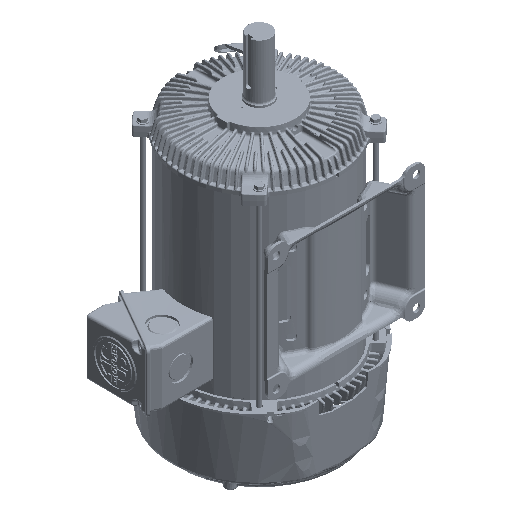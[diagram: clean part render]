
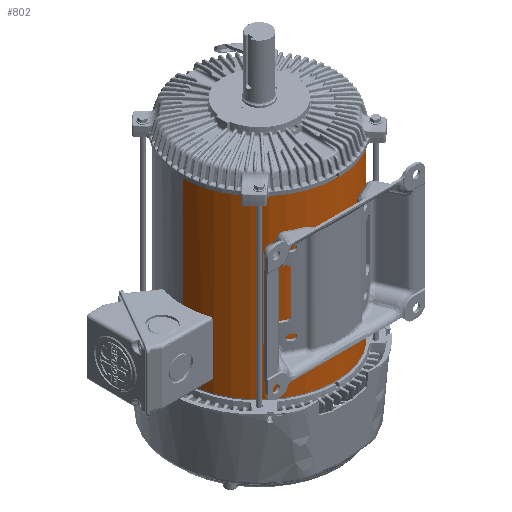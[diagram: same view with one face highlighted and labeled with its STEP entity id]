
A CAD part, isometric view. The second image highlights one B-rep face of the part: STEP entity #802.
In plain terms, the highlighted cylindrical face has radius 137.879 mm (diameter 275.758 mm), a partial arc.
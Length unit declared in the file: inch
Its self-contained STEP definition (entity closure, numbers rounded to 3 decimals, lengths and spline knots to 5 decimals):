
#27=DIRECTION('',(0.,0.,1.));
#28=VECTOR('',#27,12.592);
#29=CARTESIAN_POINT('',(5.4283,0.,-6.2955));
#30=LINE('',#29,#28);
#223=CARTESIAN_POINT('',(-5.28242,-1.25,-4.141));
#224=CARTESIAN_POINT('',(-5.28554,-1.23682,-4.141));
#225=CARTESIAN_POINT('',(-5.29128,-1.21212,
-4.13656));
#226=CARTESIAN_POINT('',(-5.29897,-1.17798,
-4.11704));
#227=CARTESIAN_POINT('',(-5.30441,-1.15315,
-4.08716));
#228=CARTESIAN_POINT('',(-5.30724,-1.14004,
-4.05115));
#229=CARTESIAN_POINT('',(-5.30727,-1.13988,
-4.01257));
#230=CARTESIAN_POINT('',(-5.30446,-1.15294,
-3.97626));
#231=CARTESIAN_POINT('',(-5.29912,-1.17731,
-3.94653));
#232=CARTESIAN_POINT('',(-5.29136,-1.2118,
-3.92649));
#233=CARTESIAN_POINT('',(-5.28557,-1.23668,-3.922));
#234=CARTESIAN_POINT('',(-5.28242,-1.25,-3.922));
#236=CARTESIAN_POINT('',(-5.28242,-1.25,-3.922));
#237=CARTESIAN_POINT('',(-5.27929,-1.26322,-3.922));
#238=CARTESIAN_POINT('',(-5.27334,-1.28795,
-3.92645));
#239=CARTESIAN_POINT('',(-5.26485,-1.32215,
-3.94606));
#240=CARTESIAN_POINT('',(-5.25855,-1.34692,
-3.97599));
#241=CARTESIAN_POINT('',(-5.25519,-1.35995,
-4.01191));
#242=CARTESIAN_POINT('',(-5.25514,-1.36012,
-4.05035));
#243=CARTESIAN_POINT('',(-5.25849,-1.34715,
-4.08658));
#244=CARTESIAN_POINT('',(-5.26468,-1.32285,
-4.11635));
#245=CARTESIAN_POINT('',(-5.27325,-1.28831,
-4.13649));
#246=CARTESIAN_POINT('',(-5.27926,-1.26336,-4.141));
#247=CARTESIAN_POINT('',(-5.28242,-1.25,-4.141));
#249=CARTESIAN_POINT('',(0.,0.,-6.2955));
#250=DIRECTION('',(0.,0.,1.));
#251=DIRECTION('',(-1.,0.,0.));
#252=AXIS2_PLACEMENT_3D('',#249,#250,#251);
#254=DIRECTION('',(0.,0.,1.));
#255=VECTOR('',#254,1.074);
#256=CARTESIAN_POINT('',(-5.4283,0.,-6.2955));
#257=LINE('',#256,#255);
#258=CARTESIAN_POINT('',(0.,0.,-5.2215));
#259=DIRECTION('',(0.,0.,1.));
#260=DIRECTION('',(-1.,0.,0.));
#261=AXIS2_PLACEMENT_3D('',#258,#259,#260);
#263=CARTESIAN_POINT('',(-5.37624,-0.75,-5.0915));
#264=CARTESIAN_POINT('',(-5.37624,-0.75,-5.10534));
#265=CARTESIAN_POINT('',(-5.37683,-0.74581,
-5.13165));
#266=CARTESIAN_POINT('',(-5.37937,-0.72731,
-5.16867));
#267=CARTESIAN_POINT('',(-5.38326,-0.69812,
-5.19816));
#268=CARTESIAN_POINT('',(-5.38797,-0.66082,
-5.21715));
#269=CARTESIAN_POINT('',(-5.39115,-0.63411,-5.2215));
#270=CARTESIAN_POINT('',(-5.39278,-0.62,-5.2215));
#272=DIRECTION('',(0.,0.,1.));
#273=VECTOR('',#272,2.99);
#274=CARTESIAN_POINT('',(-5.37624,-0.75,-5.0915));
#275=LINE('',#274,#273);
#276=CARTESIAN_POINT('',(-5.39278,-0.62,-1.9715));
#277=CARTESIAN_POINT('',(-5.39117,-0.63397,-1.9715));
#278=CARTESIAN_POINT('',(-5.38802,-0.66045,
-1.97576));
#279=CARTESIAN_POINT('',(-5.38332,-0.6976,
-1.99448));
#280=CARTESIAN_POINT('',(-5.37942,-0.72697,
-2.02382));
#281=CARTESIAN_POINT('',(-5.37684,-0.74573,
-2.061));
#282=CARTESIAN_POINT('',(-5.37624,-0.75,-2.08752));
#283=CARTESIAN_POINT('',(-5.37624,-0.75,-2.1015));
#285=CARTESIAN_POINT('',(0.,0.,-1.9715));
#286=DIRECTION('',(0.,0.,1.));
#287=DIRECTION('',(-1.,0.,0.));
#288=AXIS2_PLACEMENT_3D('',#285,#286,#287);
#290=DIRECTION('',(0.,0.,1.));
#291=VECTOR('',#290,8.268);
#292=CARTESIAN_POINT('',(-5.4283,0.,-1.9715));
#293=LINE('',#292,#291);
#294=CARTESIAN_POINT('',(0.,0.,6.2965));
#295=DIRECTION('',(0.,0.,1.));
#296=DIRECTION('',(-1.,0.,0.));
#297=AXIS2_PLACEMENT_3D('',#294,#295,#296);
#481=CARTESIAN_POINT('',(-5.4283,0.,-1.9715));
#482=VERTEX_POINT('',#481);
#484=CARTESIAN_POINT('',(-5.4283,0.,-5.2215));
#486=VERTEX_POINT('',#484);
#488=VERTEX_POINT('',#223);
#489=VERTEX_POINT('',#234);
#490=CARTESIAN_POINT('',(-5.39278,-0.62,-1.9715));
#491=VERTEX_POINT('',#490);
#492=VERTEX_POINT('',#283);
#493=CARTESIAN_POINT('',(-5.37624,-0.75,-5.0915));
#494=VERTEX_POINT('',#493);
#495=VERTEX_POINT('',#270);
#555=CARTESIAN_POINT('',(5.4283,0.,-6.2955));
#556=CARTESIAN_POINT('',(5.4283,0.,6.2965));
#557=VERTEX_POINT('',#555);
#558=VERTEX_POINT('',#556);
#559=CARTESIAN_POINT('',(-5.4283,0.,-6.2955));
#560=VERTEX_POINT('',#559);
#561=CARTESIAN_POINT('',(-5.4283,0.,6.2965));
#562=VERTEX_POINT('',#561);
#773=CARTESIAN_POINT('',(0.,0.,-6.5625));
#774=DIRECTION('',(0.,0.,1.));
#775=DIRECTION('',(1.,0.,0.));
#776=AXIS2_PLACEMENT_3D('',#773,#774,#775);
#777=CYLINDRICAL_SURFACE('',#776,5.4283);
#778=ORIENTED_EDGE('',*,*,#568,.F.);
#779=ORIENTED_EDGE('',*,*,#764,.F.);
#780=ORIENTED_EDGE('',*,*,#584,.T.);
#782=ORIENTED_EDGE('',*,*,#781,.T.);
#784=ORIENTED_EDGE('',*,*,#783,.F.);
#786=ORIENTED_EDGE('',*,*,#785,.T.);
#788=ORIENTED_EDGE('',*,*,#787,.F.);
#790=ORIENTED_EDGE('',*,*,#789,.F.);
#791=ORIENTED_EDGE('',*,*,#572,.T.);
#793=ORIENTED_EDGE('',*,*,#792,.T.);
#794=EDGE_LOOP('',(#778,#779,#780,#782,#784,#786,#788,#790,#791,#793));
#795=FACE_OUTER_BOUND('',#794,.F.);
#797=ORIENTED_EDGE('',*,*,#796,.F.);
#799=ORIENTED_EDGE('',*,*,#798,.F.);
#800=EDGE_LOOP('',(#797,#799));
#801=FACE_BOUND('',#800,.F.);
#802=ADVANCED_FACE('',(#795,#801),#777,.T.);
#235=B_SPLINE_CURVE_WITH_KNOTS('',3,(#223,#224,#225,#226,#227,#228,#229,#230,
#231,#232,#233,#234),.UNSPECIFIED.,.F.,.F.,(4,1,1,1,1,1,1,1,1,4),(0.,
0.11111,0.22222,0.33333,0.44444,
0.55556,0.66667,0.77778,0.88889,1.),
.UNSPECIFIED.);
#248=B_SPLINE_CURVE_WITH_KNOTS('',3,(#236,#237,#238,#239,#240,#241,#242,#243,
#244,#245,#246,#247),.UNSPECIFIED.,.F.,.F.,(4,1,1,1,1,1,1,1,1,4),(0.,
0.11111,0.22222,0.33333,0.44444,
0.55556,0.66667,0.77778,0.88889,1.),
.UNSPECIFIED.);
#253=CIRCLE('',#252,5.4283);
#262=CIRCLE('',#261,5.4283);
#271=B_SPLINE_CURVE_WITH_KNOTS('',3,(#263,#264,#265,#266,#267,#268,#269,#270),
.UNSPECIFIED.,.F.,.F.,(4,1,1,1,1,4),(0.,0.2,0.4,0.6,0.8,1.),
.UNSPECIFIED.);
#284=B_SPLINE_CURVE_WITH_KNOTS('',3,(#276,#277,#278,#279,#280,#281,#282,#283),
.UNSPECIFIED.,.F.,.F.,(4,1,1,1,1,4),(0.,0.2,0.4,0.6,0.8,1.),
.UNSPECIFIED.);
#289=CIRCLE('',#288,5.4283);
#298=CIRCLE('',#297,5.4283);
#568=EDGE_CURVE('',#557,#558,#30,.T.);
#572=EDGE_CURVE('',#482,#562,#293,.T.);
#584=EDGE_CURVE('',#560,#486,#257,.T.);
#764=EDGE_CURVE('',#560,#557,#253,.T.);
#781=EDGE_CURVE('',#486,#495,#262,.T.);
#783=EDGE_CURVE('',#494,#495,#271,.T.);
#785=EDGE_CURVE('',#494,#492,#275,.T.);
#787=EDGE_CURVE('',#491,#492,#284,.T.);
#789=EDGE_CURVE('',#482,#491,#289,.T.);
#792=EDGE_CURVE('',#562,#558,#298,.T.);
#796=EDGE_CURVE('',#488,#489,#235,.T.);
#798=EDGE_CURVE('',#489,#488,#248,.T.);
